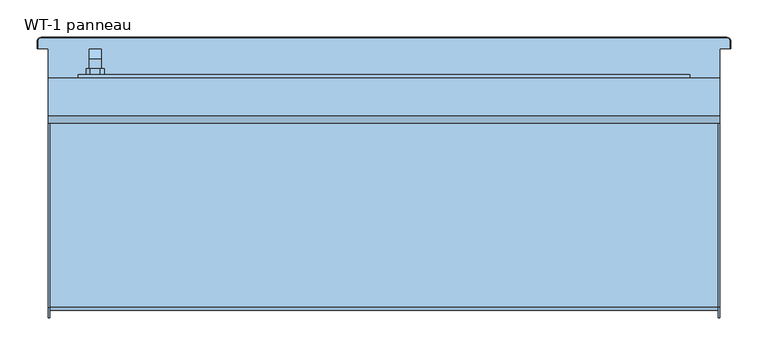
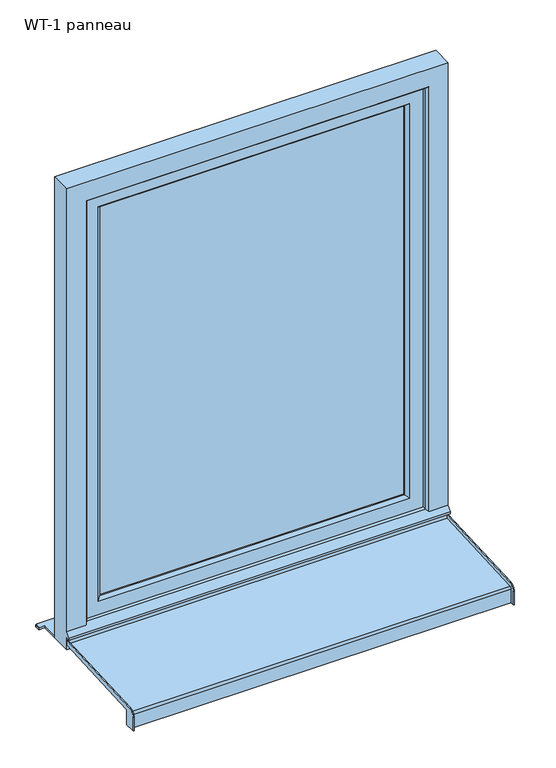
"""IFC4 building model written with IfcOpenShell, lengths in millimetres: window geometry, WT-1 panneau : 0.90 m x 1.15 m."""

import ifcopenshell
import ifcopenshell.guid

model = None  # the IFC model being written
_history = None  # IfcOwnerHistory: only IFC2X3 demands one
_inside = {}  # id of a spatial element -> (the spatial element, [elements in it])
_under = {}  # id of a project, library or spatial element -> (it, [spatial elements below it])
_declared = {}  # id of a project -> (the project, [libraries it declares])
_typed = {}  # id of a type object -> (the type object, [elements of that type])
_made_of = {}  # id of a material, layer set ... -> (it, [elements and type objects made of it])


def new_model(schema):
    """Start an empty IFC model of exactly this schema.

    Asked for "IFC4X3", IfcOpenShell would pick the latest addendum, in which some entities
    have other attributes; the version numbers below select the first issue.
    IFC2X3 requires an IfcOwnerHistory on every rooted entity: one is made here for all.
    """
    global model, _history
    if schema == "IFC4X3":
        model = ifcopenshell.file(schema_version=(4, 3, 0, 0))
    else:
        model = ifcopenshell.file(schema=schema)
    _inside.clear()
    _under.clear()
    _declared.clear()
    _typed.clear()
    _made_of.clear()
    _history = None
    if model.schema == "IFC2X3":
        org = make("IfcOrganization", Name="unknown")
        user = make(
            "IfcPersonAndOrganization",
            ThePerson=make("IfcPerson", FamilyName="unknown"),
            TheOrganization=org,
        )
        app = make(
            "IfcApplication",
            ApplicationDeveloper=org,
            Version="unknown",
            ApplicationFullName="unknown",
            ApplicationIdentifier="unknown",
        )
        _history = make(
            "IfcOwnerHistory",
            OwningUser=user,
            OwningApplication=app,
            ChangeAction="ADDED",
            CreationDate=0,
        )
    return model


def make(cls, **values):
    """One entity of the class cls with the attributes given. An attribute that is None is left unset."""
    return model.create_entity(
        cls, **{name: value for name, value in values.items() if value is not None}
    )


def rooted(cls, **values):
    """An entity with a GlobalId (a new one), such as an element, a storey or a relation."""
    return make(cls, GlobalId=ifcopenshell.guid.new(), OwnerHistory=_history, **values)


def si_unit(unit_type, name, prefix=None):
    """IfcSIUnit, for example si_unit("LENGTHUNIT", "METRE", prefix="MILLI")."""
    return make("IfcSIUnit", UnitType=unit_type, Prefix=prefix, Name=name)


def assignment(units):
    """IfcUnitAssignment: the units of a project."""
    return None if units is None else make("IfcUnitAssignment", Units=units)


def point(xyz):
    """IfcCartesianPoint."""
    return None if xyz is None else make("IfcCartesianPoint", Coordinates=xyz)


def direction(xyz):
    """IfcDirection."""
    return None if xyz is None else make("IfcDirection", DirectionRatios=xyz)


def frame(location, z_axis=None, x_axis=None):
    """IfcAxis2Placement3D, a coordinate frame: its origin and axes. An axis left out is left unset."""
    return make(
        "IfcAxis2Placement3D",
        Location=point(location),
        Axis=direction(z_axis),
        RefDirection=direction(x_axis),
    )


def origin():
    """The frame at (0, 0, 0) with its axes left unset."""
    return frame((0.0, 0.0, 0.0))


def place(relative_to, where):
    """IfcLocalPlacement: puts the frame where relative to a parent placement (None: the world)."""
    return make(
        "IfcLocalPlacement", PlacementRelTo=relative_to, RelativePlacement=where
    )


def context(
    kind, dimensions, precision=None, world=None, true_north=None, identifier=None
):
    """IfcGeometricRepresentationContext, for example the 3D "Model" context."""
    return make(
        "IfcGeometricRepresentationContext",
        ContextIdentifier=identifier,
        ContextType=kind,
        CoordinateSpaceDimension=dimensions,
        Precision=precision,
        WorldCoordinateSystem=world,
        TrueNorth=true_north,
    )


def project(units=None, contexts=None):
    """IfcProject with its units and contexts."""
    return rooted(
        "IfcProject",
        Name="project",
        RepresentationContexts=contexts,
        UnitsInContext=assignment(units),
    )


def spatial(cls, under=None, at=None, **own):
    """A site, building, storey or space (cls), placed at a placement, below another one or the project."""
    s = rooted(cls, ObjectPlacement=at, **own)
    if under is not None:
        _under.setdefault(under.id(), (under, []))[1].append(s)
    return s


def polyline(points):
    """IfcPolyline through the points."""
    return make("IfcPolyline", Points=[point(p) for p in points])


def circle_curve(where, radius):
    """IfcCircle in the frame where."""
    return make("IfcCircle", Position=where, Radius=radius)


def outline(outer, holes=None, kind="AREA"):
    """IfcArbitraryClosedProfileDef: a profile drawn as a closed curve; with holes, ...WithVoids."""
    if holes is None:
        return make("IfcArbitraryClosedProfileDef", ProfileType=kind, OuterCurve=outer)
    return make(
        "IfcArbitraryProfileDefWithVoids",
        ProfileType=kind,
        OuterCurve=outer,
        InnerCurves=holes,
    )


def extrude(swept, where, along, depth):
    """IfcExtrudedAreaSolid: the profile swept, set in the frame where, extruded along a direction by depth."""
    return make(
        "IfcExtrudedAreaSolid",
        SweptArea=swept,
        Position=where,
        ExtrudedDirection=direction(along),
        Depth=depth,
    )


def faces_of(points, faces, orient=None, outer=None):
    """IfcFace entities. A face is a list of loops; a loop is a list of indices into points, from 0.

    orient and outer hold one flag for each loop. By default every Orientation is true, the
    first loop of a face is its IfcFaceOuterBound and the others are IfcFaceBound.
    """
    made = []
    for i, loops in enumerate(faces):
        bounds = []
        for j, loop in enumerate(loops):
            is_outer = j == 0 if outer is None else outer[i][j]
            bounds.append(
                make(
                    "IfcFaceOuterBound" if is_outer else "IfcFaceBound",
                    Bound=make("IfcPolyLoop", Polygon=[points[k] for k in loop]),
                    Orientation=True if orient is None else orient[i][j],
                )
            )
        made.append(make("IfcFace", Bounds=bounds))
    return made


def faceted_brep(points, faces, orient=None, outer=None, voids=None):
    """IfcFacetedBrep: a solid bounded by flat faces; with voids (closed shells), ...WithVoids."""
    shared = [point(p) for p in points]
    hull = make("IfcClosedShell", CfsFaces=faces_of(shared, faces, orient, outer))
    if voids is None:
        return make("IfcFacetedBrep", Outer=hull)
    return make(
        "IfcFacetedBrepWithVoids",
        Outer=hull,
        Voids=[
            make(cls, CfsFaces=faces_of(shared, fs, o, b)) for cls, fs, o, b in voids
        ],
    )


def shape(context_of_items, identifier, shape_type, items):
    """IfcShapeRepresentation: the items that make up one representation, for example the "Body"."""
    return make(
        "IfcShapeRepresentation",
        ContextOfItems=context_of_items,
        RepresentationIdentifier=identifier,
        RepresentationType=shape_type,
        Items=items,
    )


def source(mapping_origin, context_of_items, identifier, shape_type, items):
    """IfcRepresentationMap: a shape defined once, which mapped items show again and again."""
    return make(
        "IfcRepresentationMap",
        MappingOrigin=mapping_origin,
        MappedRepresentation=shape(context_of_items, identifier, shape_type, items),
    )


def transform(
    local_origin,
    x_axis=None,
    y_axis=None,
    z_axis=None,
    scale=None,
    scale2=None,
    scale3=None,
    uniform=True,
):
    """IfcCartesianTransformationOperator3D, or its non-uniform kind. x_axis, y_axis, z_axis: its Axis1, 2, 3."""
    if uniform:
        return make(
            "IfcCartesianTransformationOperator3D",
            Axis1=direction(x_axis),
            Axis2=direction(y_axis),
            LocalOrigin=point(local_origin),
            Scale=scale,
            Axis3=direction(z_axis),
        )
    return make(
        "IfcCartesianTransformationOperator3DnonUniform",
        Axis1=direction(x_axis),
        Axis2=direction(y_axis),
        LocalOrigin=point(local_origin),
        Scale=scale,
        Axis3=direction(z_axis),
        Scale2=scale2,
        Scale3=scale3,
    )


def mapped(mapping_source, mapping_target):
    """IfcMappedItem: shows the shape of a source again, moved by a transform."""
    return make(
        "IfcMappedItem", MappingSource=mapping_source, MappingTarget=mapping_target
    )


def made_of(thing, what):
    """Note that an element or type object is made of a material, layer set ...; save() writes the relation."""
    if what is not None:
        _made_of.setdefault(what.id(), (what, []))[1].append(thing)
    return thing


def element(
    cls,
    number,
    at=None,
    inside=None,
    cuts=None,
    type_object=None,
    material=None,
    context=None,
    identifier="Body",
    shape_type=None,
    held_by="IfcProductDefinitionShape",
    body=None,
    shapes=None,
    **own,
):
    """One element of the class cls, such as IfcWall. Its Tag is "e" and its number.

    at: its placement. inside: the storey or other place that contains it. cuts: it is an
    opening in that element (IfcRelVoidsElement). A single representation is given by context,
    identifier, shape_type and body (its items); several are given by shapes. held_by: the class
    of the entity that holds the representations. save() writes the other relations.
    """
    e = rooted(cls, Tag="e%d" % number, ObjectPlacement=at, **own)
    if body is not None:
        shapes = [shape(context, identifier, shape_type, body)]
    if shapes is not None:
        e.Representation = make(held_by, Representations=shapes)
    if inside is not None:
        _inside.setdefault(inside.id(), (inside, []))[1].append(e)
    if cuts is not None:
        rooted(
            "IfcRelVoidsElement", RelatingBuildingElement=cuts, RelatedOpeningElement=e
        )
    if type_object is not None:
        _typed.setdefault(type_object.id(), (type_object, []))[1].append(e)
    return made_of(e, material)


def aggregate(whole, parts):
    """IfcRelAggregates: a whole, such as a stair, and the parts it consists of."""
    return rooted("IfcRelAggregates", RelatingObject=whole, RelatedObjects=parts)


def save(model, path):
    """Write the relations noted so far, then the file.

    IfcRelAggregates (storeys below a building ...), IfcRelContainedInSpatialStructure (elements
    in a storey), IfcRelDefinesByType, IfcRelAssociatesMaterial and IfcRelDeclares: one each for
    every whole, place, type object, material and project.
    """
    for whole, parts in _under.values():
        aggregate(whole, parts)
    for where, things in _inside.values():
        rooted(
            "IfcRelContainedInSpatialStructure",
            RelatedElements=things,
            RelatingStructure=where,
        )
    for kind, things in _typed.values():
        rooted("IfcRelDefinesByType", RelatedObjects=things, RelatingType=kind)
    for what, things in _made_of.values():
        rooted("IfcRelAssociatesMaterial", RelatedObjects=things, RelatingMaterial=what)
    for by, libraries in _declared.values():
        rooted("IfcRelDeclares", RelatingContext=by, RelatedDefinitions=libraries)
    model.write(path)


def plane_surface(at):
    """IfcPlane: the flat surface through the origin of the frame at, square to its z axis."""
    return make("IfcPlane", Position=at)


def cylinder_surface(at, radius):
    """IfcCylindricalSurface: all points at the distance radius from the z axis of the frame at."""
    return make("IfcCylindricalSurface", Position=at, Radius=radius)


def revolved_surface(curve, axis_point, axis_direction):
    """IfcSurfaceOfRevolution: the curve turned about the line through axis_point along axis_direction."""
    return make(
        "IfcSurfaceOfRevolution",
        SweptCurve=make("IfcArbitraryOpenProfileDef", ProfileType="CURVE", Curve=curve),
        AxisPosition=make("IfcAxis1Placement", Location=point(axis_point), Axis=direction(axis_direction)),
    )


def advanced_brep(points, edges, surfaces, faces):
    """IfcAdvancedBrep: a solid bounded by faces that lie on surfaces and meet in shared edges.

    An edge is (start, end): straight between two places in points (the first is 0);
    or (start, end, curve); or (start, end, curve, False) where it runs against its curve.
    A face is (place in surfaces, loops), or (place, loops, False) where it looks against
    its surface's normal. A loop lists edges by number (the first is 1), with a minus sign
    where the edge is run from its end to its start. The first loop is the outer one.
    """
    corners = [point(p) for p in points]
    vertices = [make("IfcVertexPoint", VertexGeometry=c) for c in corners]
    made = []
    for start, end, *more in edges:
        made.append(
            make(
                "IfcEdgeCurve",
                EdgeStart=vertices[start],
                EdgeEnd=vertices[end],
                EdgeGeometry=more[0] if more else make("IfcPolyline", Points=[corners[start], corners[end]]),
                SameSense=more[1] if len(more) > 1 else True,
            )
        )
    hull = []
    for where, loops, *sense in faces:
        bounds = []
        for j, loop in enumerate(loops):
            ring = [make("IfcOrientedEdge", EdgeElement=made[abs(k) - 1], Orientation=k > 0) for k in loop]
            bounds.append(
                make(
                    "IfcFaceOuterBound" if j == 0 else "IfcFaceBound",
                    Bound=make("IfcEdgeLoop", EdgeList=ring),
                    Orientation=True,
                )
            )
        hull.append(make("IfcAdvancedFace", Bounds=bounds, FaceSurface=surfaces[where], SameSense=sense[0] if sense else True))
    return make("IfcAdvancedBrep", Outer=make("IfcClosedShell", CfsFaces=hull))


def wt_1_panneau_042c0949(model_context):
    return source(origin(), model_context, "Body", "SolidModel", [
        faceted_brep([(-395.5, 133.0, 1306.0), (-395.5, 133.0, 1294.0), (-379.5, 133.0, 1294.0), (-379.5, 133.0, 1306.0), (-379.5, 145.4852814, 1306.0), (-395.5, 145.4852814, 1306.0), (-379.5, 140.5147186, 1294.0), (-379.5, 147.0, 1287.5147186), (-379.5, 147.0, 1287.2282668), (-379.5, 149.7580139, 1208.5355339), (-379.5, 159.0, 1208.5355339), (-379.5, 159.0, 1292.4852814), (-395.5, 140.5147186, 1294.0), (-395.5, 159.0, 1292.4852814), (-395.5, 159.0, 1208.5355339), (-395.5, 149.7580139, 1208.5355339), (-395.5, 147.0099909, 1287.2286157), (-395.5, 147.0, 1287.5147186), (-383.0355339, 159.0, 1205.0), (-383.0355339, 149.8814775, 1205.0), (-391.9644661, 149.8814775, 1205.0), (-391.9644661, 159.0, 1205.0)], [[[0, 1, 2, 3]], [[3, 4, 5, 0]], [[2, 6, 7, 8, 9, 10, 11, 4, 3]], [[1, 12, 6, 2]], [[0, 5, 13, 14, 15, 16, 17, 12, 1]], [[4, 11, 13, 5]], [[6, 12, 17, 7]], [[18, 19, 20, 21]], [[11, 10, 18, 21, 14, 13]], [[17, 16, 8, 7]], [[16, 15, 20, 19, 9, 8]], [[9, 19, 18, 10]], [[14, 21, 20, 15]]]),
        extrude(outline(polyline([(1330.0, -394.5), (1325.0, -399.5), (1275.0, -399.5), (1270.0, -394.5), (1270.0, -380.5), (1275.0, -375.5), (1325.0, -375.5), (1330.0, -380.5), (1330.0, -394.5)])), frame((0.0, 125.0, 0.0), z_axis=(0.0, 1.0, 0.0), x_axis=(0.0, 0.0, 1.0)), (0.0, 0.0, 1.0), 8.0),
        advanced_brep(
        [(-450.0, -175.0, 762.0), (-450.0, -201.5, 762.0), (-450.0, -201.5, 795.1063906), (-450.0, -187.2850393, 810.0858337), (-450.0, 70.0, 823.5695712), (-450.0, 70.0, 812.0537892), (-450.0, -175.0, 799.2138833), (450.0, -175.0, 799.2138833), (450.0, 70.0, 812.0537892), (450.0, 70.0, 823.5695712), (450.0, -187.2850393, 810.0858337), (450.0, -201.5, 795.1063906), (450.0, -201.5, 762.0), (450.0, -175.0, 762.0), (-448.0, 70.0, 823.5695712), (-448.0, 70.0, 813.5558478), (448.0, 70.0, 813.5558478), (448.0, 70.0, 823.5695712), (-448.0, -186.7616798, 800.0995383), (448.0, -186.7616798, 800.0995383), (448.0, -191.5, 795.1063906), (-448.0, -191.5, 795.1063906), (-448.0, -191.5, 762.0), (448.0, -191.5, 762.0), (-448.0, -190.0, 762.0), (448.0, -190.0, 762.0), (448.0, -175.0, 762.0), (448.0, -201.5, 762.0), (-448.0, -201.5, 762.0), (-448.0, -175.0, 762.0), (-448.0, -180.0, 772.0), (448.0, -180.0, 772.0), (-448.0, -181.0606602, 773.0606602), (448.0, -181.0606602, 773.0606602), (-448.0, -190.0, 764.1213203), (448.0, -190.0, 764.1213203), (-448.0, -190.0, 795.0728058), (448.0, -190.0, 795.0728058), (-448.0, -175.0, 799.2138833), (448.0, -175.0, 799.2138833), (448.0, -186.649637, 798.6033517), (-448.0, -186.649637, 798.6033517), (448.0, -201.5, 795.1063906), (448.0, -187.2850393, 810.0858337), (-448.0, -187.2850393, 810.0858337), (-448.0, -201.5, 795.1063906)],
        [
            (0, 1),
            (1, 2),
            (2, 3, circle_curve(frame((-450.0, -186.5, 795.1063906), z_axis=(-1.0, 0.0, 0.0), x_axis=(0.0, -0.05233595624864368, 0.9986295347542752)), 15.0)),
            (3, 4),
            (4, 5),
            (5, 6),
            (6, 0),
            (7, 8),
            (8, 9),
            (9, 10),
            (10, 11, circle_curve(frame((450.0, -186.5, 795.1063906), z_axis=(1.0, 0.0, 0.0), x_axis=(0.0, -1.0, 0.0)), 15.0)),
            (11, 12),
            (12, 13),
            (13, 7),
            (14, 15),
            (15, 16),
            (16, 17),
            (17, 9),
            (8, 5),
            (4, 14),
            (18, 19),
            (19, 16),
            (15, 18),
            (20, 21),
            (21, 22),
            (22, 23),
            (23, 20),
            (24, 25),
            (25, 26),
            (26, 13),
            (12, 27),
            (27, 23),
            (22, 28),
            (28, 1),
            (0, 29),
            (29, 24),
            (30, 31),
            (31, 25),
            (24, 30),
            (32, 33),
            (33, 31),
            (30, 32),
            (34, 35),
            (35, 33),
            (32, 34),
            (36, 37),
            (37, 35),
            (34, 36),
            (38, 6),
            (7, 39),
            (39, 40),
            (40, 41),
            (41, 38),
            (41, 36, circle_curve(frame((-448.0, -186.4646089, 795.0728058), z_axis=(1.0, 0.0, 0.0), x_axis=(0.0, 1.0, 0.0)), 3.5353911)),
            (29, 38),
            (37, 40, circle_curve(frame((448.0, -186.4646089, 795.0728058), z_axis=(-1.0, 0.0, 0.0), x_axis=(0.0, 1.0, 0.0)), 3.5353911)),
            (39, 26),
            (18, 21, circle_curve(frame((-448.0, -186.5, 795.1063906), z_axis=(1.0, 0.0, 0.0), x_axis=(0.0, 1.0, 0.0)), 5.0)),
            (20, 19, circle_curve(frame((448.0, -186.5, 795.1063906), z_axis=(-1.0, 0.0, 0.0), x_axis=(0.0, 1.0, 0.0)), 5.0)),
            (27, 42),
            (42, 43, circle_curve(frame((448.0, -186.5, 795.1063906), z_axis=(-1.0, 0.0, 0.0), x_axis=(0.0, -1.0, 0.0)), 15.0)),
            (43, 17),
            (11, 42),
            (10, 43),
            (14, 44),
            (44, 45, circle_curve(frame((-448.0, -186.5, 795.1063906), z_axis=(1.0, 0.0, 0.0), x_axis=(0.0, -0.05233595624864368, 0.9986295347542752)), 15.0)),
            (45, 28),
            (3, 44),
            (2, 45),
        ],
        [
            plane_surface(frame((-450.0, 70.0, 812.0537892), z_axis=(-1.0, 0.0, 0.0), x_axis=(0.0, 0.0, 1.0))),
            plane_surface(frame((450.0, 70.0, 812.0537892), z_axis=(1.0, 0.0, 0.0), x_axis=(0.0, 0.0, -1.0))),
            plane_surface(frame((-450.0, 70.0, 812.0537892), z_axis=(0.0, 1.0, 0.0), x_axis=(1.0, 0.0, 0.0))),
            plane_surface(frame((-450.0, 70.0, 813.5558478), z_axis=(0.0, -0.052335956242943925, 0.9986295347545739), x_axis=(1.0, 0.0, 0.0))),
            plane_surface(frame((-450.0, -191.5, 795.1063906), z_axis=(0.0, -1.0, 0.0), x_axis=(1.0, 0.0, 0.0))),
            plane_surface(frame((-450.0, -191.5, 762.0), z_axis=(0.0, 0.0, -1.0), x_axis=(1.0, 0.0, 0.0))),
            plane_surface(frame((-450.0, -190.0, 762.0), z_axis=(0.0, 0.7071067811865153, -0.7071067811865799), x_axis=(1.0, 0.0, 0.0))),
            plane_surface(frame((-450.0, -180.0, 772.0), z_axis=(0.0, 0.7071067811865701, 0.707106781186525), x_axis=(1.0, 0.0, 0.0))),
            plane_surface(frame((-450.0, -181.0606602, 773.0606602), z_axis=(0.0, -0.7071067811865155, 0.7071067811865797), x_axis=(1.0, 0.0, 0.0))),
            plane_surface(frame((-450.0, -190.0, 764.1213203), z_axis=(0.0, 1.0, 0.0), x_axis=(1.0, 0.0, 0.0))),
            plane_surface(frame((-450.0, -186.649637, 798.6033517), z_axis=(0.0, 0.052335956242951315, -0.9986295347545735), x_axis=(1.0, 0.0, 0.0))),
            plane_surface(frame((-448.0, -190.0, 798.4277666), z_axis=(1.0, 0.0, 0.0), x_axis=(0.0, 0.9986295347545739, 0.052335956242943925))),
            plane_surface(frame((-450.0, -175.0, 762.0), z_axis=(0.0, 1.0, 0.0), x_axis=(1.0, 0.0, 0.0))),
            plane_surface(frame((448.0, -190.0, 798.4277666), z_axis=(-1.0, 0.0, 0.0), x_axis=(0.0, 0.0, -1.0))),
            plane_surface(frame((448.0, -175.0, 762.0), z_axis=(0.0, 1.0, 0.0), x_axis=(1.0, 0.0, 0.0))),
            cylinder_surface(frame((450.0, -186.5, 795.1063906), z_axis=(-1.0, 0.0, 0.0), x_axis=(0.0, 1.0, 0.0)), 5.0),
            revolved_surface(polyline([(448.0, -182.9292178, 795.0728058), (-448.0, -182.9292178, 795.0728058)]), (450.0, -186.4646089, 795.0728058), (1.0, 0.0, 0.0)),
            plane_surface(frame((448.0, -191.5, 762.0), z_axis=(-1.0, 0.0, 0.0), x_axis=(0.0, 0.0, 1.0))),
            plane_surface(frame((448.0, -201.5, 762.0), z_axis=(0.0, -1.0, 0.0), x_axis=(0.0, 0.0, 1.0))),
            cylinder_surface(frame((450.0, -186.5, 795.1063906), z_axis=(1.0, 0.0, 0.0), x_axis=(0.0, -1.0, 0.0)), 15.0),
            plane_surface(frame((448.0, -187.2850393, 810.0858337), z_axis=(0.0, -0.05233595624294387, 0.9986295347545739), x_axis=(0.0, 0.9986295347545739, 0.05233595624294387))),
            plane_surface(frame((-448.0, 70.0, 823.5695712), z_axis=(1.0, 0.0, 0.0), x_axis=(0.0, 0.9986295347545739, 0.05233595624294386))),
            plane_surface(frame((-450.0, 70.0, 823.5695712), z_axis=(0.0, -0.05233595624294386, 0.9986295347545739), x_axis=(1.0, 0.0, 0.0))),
            cylinder_surface(frame((-450.0, -186.5, 795.1063906), z_axis=(-1.0, 0.0, 0.0), x_axis=(0.0, -0.05233595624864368, 0.9986295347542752)), 15.0),
            plane_surface(frame((-448.0, -201.5, 795.1063906), z_axis=(0.0, -1.0, 0.0), x_axis=(0.0, 0.0, -1.0))),
        ],
        [
            (0, [[1, 2, 3, 4, 5, 6, 7]]),
            (1, [[8, 9, 10, 11, 12, 13, 14]]),
            (2, [[15, 16, 17, 18, -9, 19, -5, 20]]),
            (3, [[21, 22, -16, 23]]),
            (4, [[24, 25, 26, 27]]),
            (5, [[28, 29, 30, -13, 31, 32, -26, 33, 34, -1, 35, 36]]),
            (6, [[37, 38, -28, 39]]),
            (7, [[40, 41, -37, 42]]),
            (8, [[43, 44, -40, 45]]),
            (9, [[46, 47, -43, 48]]),
            (10, [[49, -6, -19, -8, 50, 51, 52, 53]]),
            (11, [[-53, 54, -48, -45, -42, -39, -36, 55]]),
            (12, [[-35, -7, -49, -55]]),
            (13, [[-38, -41, -44, -47, 56, -51, 57, -29]]),
            (14, [[-50, -14, -30, -57]]),
            (15, [[-21, 58, -24, 59]]),
            (16, [[-52, -56, -46, -54]]),
            (17, [[60, 61, 62, -17, -22, -59, -27, -32]]),
            (18, [[-12, 63, -60, -31]]),
            (19, [[64, -61, -63, -11]]),
            (20, [[-10, -18, -62, -64]]),
            (21, [[65, 66, 67, -33, -25, -58, -23, -15]]),
            (22, [[68, -65, -20, -4]]),
            (23, [[69, -66, -68, -3]]),
            (24, [[-34, -67, -69, -2]]),
        ],
    ),
        extrude(outline(polyline([(-360.0, 115.0), (360.0, 115.0), (360.0, 95.0), (-360.0, 95.0), (-360.0, 115.0)])), frame((0.0, 0.0, 890.0), z_axis=(0.0, 0.0, 1.0), x_axis=(1.0, 0.0, 0.0)), (0.0, 0.0, 1.0), 970.0),
        faceted_brep([(-410.0, 125.0, 840.0), (410.0, 125.0, 840.0), (410.0, 85.0, 840.0), (-410.0, 85.0, 840.0), (410.0, 125.0, 1910.0), (410.0, 85.0, 1910.0), (-410.0, 85.0, 1910.0), (367.0710678, 85.0, 1867.0710678), (367.0710678, 85.0, 882.9289322), (-367.0710678, 85.0, 882.9289322), (-367.0710678, 85.0, 1867.0710678), (-410.0, 125.0, 1910.0), (367.0710678, 125.0, 882.9289322), (367.0710678, 125.0, 1867.0710678), (-367.0710678, 125.0, 1867.0710678), (-367.0710678, 125.0, 882.9289322), (-360.0, 117.9289322, 890.0), (360.0, 117.9289322, 890.0), (360.0, 117.9289322, 1860.0), (360.0, 92.0710678, 890.0), (360.0, 92.0710678, 1860.0), (-360.0, 92.0710678, 890.0), (-360.0, 117.9289322, 1860.0), (-360.0, 92.0710678, 1860.0)], [[[0, 1, 2, 3]], [[1, 4, 5, 2]], [[2, 5, 6, 3], [7, 8, 9, 10]], [[4, 1, 0, 11], [12, 13, 14, 15]], [[16, 17, 12, 15]], [[17, 18, 13, 12]], [[19, 20, 18, 17]], [[9, 8, 19, 21]], [[8, 7, 20, 19]], [[11, 0, 3, 6]], [[22, 16, 15, 14]], [[23, 21, 16, 22]], [[10, 9, 21, 23]], [[21, 19, 17, 16]], [[4, 11, 6, 5]], [[18, 22, 14, 13]], [[7, 10, 23, 20]], [[20, 23, 22, 18]]]),
        faceted_brep([(450.0, 70.0, 800.0), (450.0, 120.0, 800.0), (450.0, 120.0, 1950.0), (450.0, 70.0, 1950.0), (450.0, 70.0, 845.0), (450.0, 60.0, 835.0), (450.0, 60.0, 830.0), (450.0, 70.0, 830.0), (-450.0, 70.0, 830.0), (-450.0, 70.0, 800.0), (-450.0, 60.0, 830.0), (-450.0, 60.0, 835.0), (405.0, 70.0, 845.0), (400.0, 75.0, 850.0), (-400.0, 75.0, 850.0), (-405.0, 70.0, 845.0), (-450.0, 70.0, 845.0), (-450.0, 70.0, 1950.0), (-405.0, 70.0, 1905.0), (405.0, 70.0, 1905.0), (-450.0, 120.0, 800.0), (-450.0, 120.0, 1950.0), (410.0, 120.0, 840.0), (410.0, 120.0, 1910.0), (-410.0, 120.0, 1910.0), (-410.0, 120.0, 840.0), (-410.0, 85.0, 840.0), (410.0, 85.0, 840.0), (-410.0, 85.0, 1910.0), (410.0, 85.0, 1910.0), (400.0, 85.0, 850.0), (400.0, 85.0, 1900.0), (-400.0, 85.0, 1900.0), (-400.0, 85.0, 850.0), (-400.0, 75.0, 1900.0), (400.0, 75.0, 1900.0)], [[[0, 1, 2, 3, 4, 5, 6, 7]], [[7, 8, 9, 0]], [[6, 10, 8, 7]], [[5, 11, 10, 6]], [[5, 4, 12, 13, 14, 15, 16, 11]], [[17, 16, 15, 18, 19, 12, 4, 3]], [[1, 20, 21, 2], [22, 23, 24, 25]], [[0, 9, 20, 1]], [[9, 8, 10, 11, 16, 17, 21, 20]], [[25, 26, 27, 22]], [[26, 25, 24, 28]], [[22, 27, 29, 23]], [[29, 27, 26, 28], [30, 31, 32, 33]], [[33, 14, 13, 30]], [[34, 14, 33, 32]], [[31, 30, 13, 35]], [[35, 13, 12, 19]], [[18, 15, 14, 34]], [[28, 24, 23, 29]], [[3, 2, 21, 17]], [[31, 35, 34, 32]], [[18, 34, 35, 19]]]),
        advanced_brep(
        [(450.0, 160.0, 805.0), (463.9971508, 160.0, 805.0), (463.9971508, 170.0, 805.0), (460.0, 173.9971508, 805.0), (-460.0, 173.9971508, 805.0), (-463.9971508, 170.0, 805.0), (-463.9971508, 160.0, 805.0), (-450.0, 160.0, 805.0), (-450.0, 120.0, 805.0), (450.0, 120.0, 805.0), (-450.0, 160.0, 800.0), (-463.9971508, 160.0, 800.0), (-463.9971508, 170.0, 800.0), (-460.0, 173.9971508, 800.0), (460.0, 173.9971508, 800.0), (463.9971508, 170.0, 800.0), (463.9971508, 160.0, 800.0), (450.0, 160.0, 800.0), (450.0, 120.0, 800.0), (-450.0, 120.0, 800.0), (-465.0, 170.0, 801.0028492), (-465.0, 160.0, 801.0028492), (-465.0, 160.0, 803.9971508), (-465.0, 170.0, 803.9971508), (465.0, 160.0, 801.0028492), (465.0, 160.0, 803.9971508), (465.0, 170.0, 801.0028492), (465.0, 170.0, 803.9971508), (460.0, 175.0, 801.0028492), (-460.0, 175.0, 801.0028492), (-460.0, 175.0, 803.9971508), (460.0, 175.0, 803.9971508)],
        [
            (0, 1),
            (1, 2),
            (2, 3, circle_curve(frame((460.0, 170.0, 805.0), z_axis=(0.0, 0.0, 1.0), x_axis=(0.0, 1.0, 0.0)), 3.9971508)),
            (3, 4),
            (4, 5, circle_curve(frame((-460.0, 170.0, 805.0), z_axis=(0.0, 0.0, 1.0), x_axis=(-1.0, 0.0, 0.0)), 3.9971508)),
            (5, 6),
            (6, 7),
            (7, 8),
            (8, 9),
            (9, 0),
            (10, 11),
            (11, 12),
            (12, 13, circle_curve(frame((-460.0, 170.0, 800.0), z_axis=(0.0, 0.0, -1.0), x_axis=(-1.0, 0.0, 0.0)), 3.9971508)),
            (13, 14),
            (14, 15, circle_curve(frame((460.0, 170.0, 800.0), z_axis=(0.0, 0.0, -1.0), x_axis=(0.0, 1.0, 0.0)), 3.9971508)),
            (15, 16),
            (16, 17),
            (17, 18),
            (18, 19),
            (19, 10),
            (20, 21),
            (21, 22),
            (22, 23),
            (23, 20),
            (6, 22),
            (21, 11),
            (10, 7),
            (19, 8),
            (18, 9),
            (17, 0),
            (16, 24),
            (24, 25),
            (25, 1),
            (24, 26),
            (26, 27),
            (27, 25),
            (28, 29),
            (29, 30),
            (30, 31),
            (31, 28),
            (31, 27, circle_curve(frame((460.0, 170.0, 803.9971508), z_axis=(0.0, 0.0, -1.0), x_axis=(0.0, 1.0, 0.0)), 5.0)),
            (26, 28, circle_curve(frame((460.0, 170.0, 801.0028492), z_axis=(0.0, 0.0, 1.0), x_axis=(0.0, 1.0, 0.0)), 5.0)),
            (23, 30, circle_curve(frame((-460.0, 170.0, 803.9971508), z_axis=(0.0, 0.0, -1.0), x_axis=(0.0, 1.0, 0.0)), 5.0)),
            (29, 20, circle_curve(frame((-460.0, 170.0, 801.0028492), z_axis=(0.0, 0.0, 1.0), x_axis=(0.0, 1.0, 0.0)), 5.0)),
            (5, 23),
            (20, 12),
            (4, 30),
            (29, 13),
            (3, 31),
            (28, 14),
            (2, 27),
            (26, 15),
        ],
        [
            plane_surface(frame((-465.0, 160.0, 805.0), z_axis=(0.0, 0.0, 1.0), x_axis=(0.0, 1.0, 0.0))),
            plane_surface(frame((-465.0, 160.0, 800.0), z_axis=(0.0, 0.0, -1.0), x_axis=(0.0, -1.0, 0.0))),
            plane_surface(frame((-465.0, 170.0, 800.0), z_axis=(-1.0, 0.0, 0.0), x_axis=(0.0, 0.0, 1.0))),
            plane_surface(frame((-465.0, 160.0, 800.0), z_axis=(0.0, -1.0, 0.0), x_axis=(0.0, 0.0, 1.0))),
            plane_surface(frame((-450.0, 160.0, 800.0), z_axis=(-1.0, 0.0, 0.0), x_axis=(0.0, 0.0, 1.0))),
            plane_surface(frame((-450.0, 120.0, 800.0), z_axis=(0.0, -1.0, 0.0), x_axis=(0.0, 0.0, 1.0))),
            plane_surface(frame((450.0, 120.0, 800.0), z_axis=(1.0, 0.0, 0.0), x_axis=(0.0, 0.0, 1.0))),
            plane_surface(frame((450.0, 160.0, 800.0), z_axis=(0.0, -1.0, 0.0), x_axis=(0.0, 0.0, 1.0))),
            plane_surface(frame((465.0, 160.0, 800.0), z_axis=(1.0, 0.0, 0.0), x_axis=(0.0, 0.0, 1.0))),
            plane_surface(frame((460.0, 175.0, 800.0), z_axis=(0.0, 1.0, 0.0), x_axis=(0.0, 0.0, 1.0))),
            cylinder_surface(frame((460.0, 170.0, 805.0), z_axis=(0.0, 0.0, -1.0), x_axis=(0.0, 1.0, 0.0)), 5.0),
            cylinder_surface(frame((-460.0, 170.0, 805.0), z_axis=(0.0, 0.0, -1.0), x_axis=(0.0, 1.0, 0.0)), 5.0),
            plane_surface(frame((-463.9971508, 160.0, 805.0), z_axis=(-0.7071067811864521, 0.0, 0.707106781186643), x_axis=(0.0, 1.0, 0.0))),
            plane_surface(frame((-465.0, 160.0, 801.0028492), z_axis=(-0.7071067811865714, 0.0, -0.7071067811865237), x_axis=(0.0, 1.0, 0.0))),
            revolved_surface(polyline([(-465.0, 170.0, 803.9971508), (-463.9971508, 170.0, 805.0)]), (-460.0, 170.0, 805.0), (0.0, 0.0, 1.0)),
            revolved_surface(polyline([(-463.9971508, 170.0, 800.0), (-465.0, 170.0, 801.0028492)]), (-460.0, 170.0, 805.0), (0.0, 0.0, 1.0)),
            plane_surface(frame((-460.0, 173.9971508, 805.0), z_axis=(0.0, 0.7071067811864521, 0.707106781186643), x_axis=(1.0, 0.0, 0.0))),
            plane_surface(frame((-460.0, 175.0, 801.0028492), z_axis=(0.0, 0.7071067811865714, -0.7071067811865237), x_axis=(1.0, 0.0, 0.0))),
            revolved_surface(polyline([(460.0, 175.0, 803.9971508), (460.0, 173.9971508, 805.0)]), (460.0, 170.0, 805.0), (0.0, 0.0, 1.0)),
            revolved_surface(polyline([(460.0, 173.9971508, 800.0), (460.0, 175.0, 801.0028492)]), (460.0, 170.0, 805.0), (0.0, 0.0, 1.0)),
            plane_surface(frame((463.9971508, 170.0, 805.0), z_axis=(0.7071067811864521, 0.0, 0.707106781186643), x_axis=(0.0, -1.0, 0.0))),
            plane_surface(frame((465.0, 170.0, 801.0028492), z_axis=(0.7071067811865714, 0.0, -0.7071067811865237), x_axis=(0.0, -1.0, 0.0))),
        ],
        [
            (0, [[1, 2, 3, 4, 5, 6, 7, 8, 9, 10]]),
            (1, [[11, 12, 13, 14, 15, 16, 17, 18, 19, 20]]),
            (2, [[21, 22, 23, 24]]),
            (3, [[-7, 25, -22, 26, -11, 27]]),
            (4, [[-27, -20, 28, -8]]),
            (5, [[-28, -19, 29, -9]]),
            (6, [[-29, -18, 30, -10]]),
            (7, [[-17, 31, 32, 33, -1, -30]]),
            (8, [[34, 35, 36, -32]]),
            (9, [[37, 38, 39, 40]]),
            (10, [[41, -35, 42, -40]]),
            (11, [[43, -38, 44, -24]]),
            (12, [[-23, -25, -6, 45]]),
            (13, [[-12, -26, -21, 46]]),
            (14, [[-5, 47, -43, -45]]),
            (15, [[-44, 48, -13, -46]]),
            (16, [[-4, 49, -39, -47]]),
            (17, [[-37, 50, -14, -48]]),
            (18, [[-3, 51, -41, -49]]),
            (19, [[-42, 52, -15, -50]]),
            (20, [[-2, -33, -36, -51]]),
            (21, [[-34, -31, -16, -52]]),
        ],
    ),
    ])


if __name__ == "__main__":
    model = new_model("IFC4")
    model_context = context("Model", 3, world=origin())
    ifc_project = project(units=[si_unit("LENGTHUNIT", "METRE", prefix="MILLI")], contexts=[model_context])
    site = spatial("IfcSite", under=ifc_project)
    building = spatial("IfcBuilding", under=site)
    placement = place(None, origin())
    wt_1_panneau_shape = wt_1_panneau_042c0949(model_context)
    element("IfcWindow", 1, ObjectType="WT-1 panneau : 0.90 m x 1.15 m", at=placement, inside=building, context=model_context, shape_type="MappedRepresentation", body=[
        mapped(wt_1_panneau_shape, transform((0.0, 0.0, 0.0), x_axis=(1.0, 0.0, 0.0), y_axis=(0.0, 1.0, 0.0), z_axis=(0.0, 0.0, 1.0))),
    ])
    save(model, "model.ifc")
